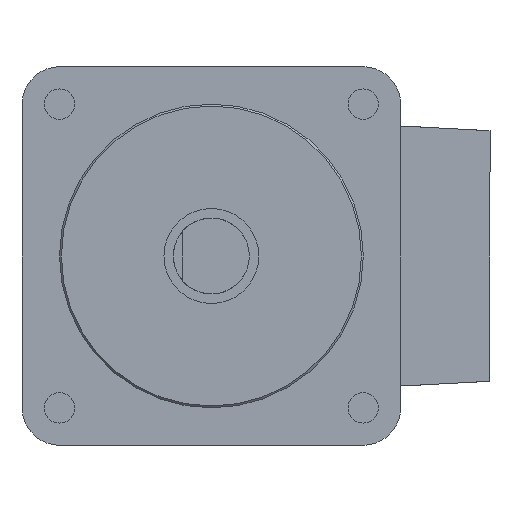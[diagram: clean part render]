
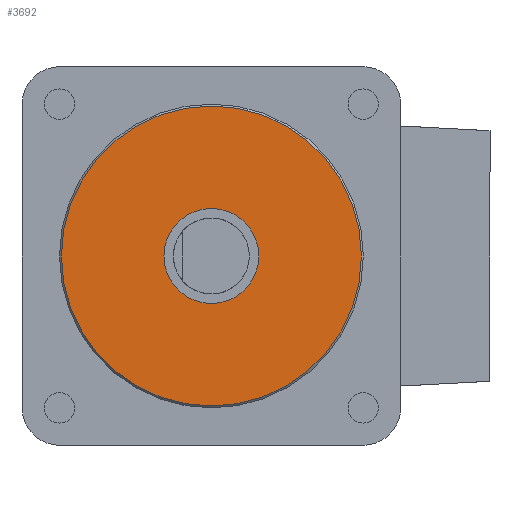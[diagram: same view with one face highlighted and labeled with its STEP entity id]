
A CAD part, front view. The second image highlights one B-rep face of the part: STEP entity #3692.
In plain terms, the highlighted planar face has unit normal (0, -1, 0).
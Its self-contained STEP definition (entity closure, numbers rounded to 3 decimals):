
#16 = DIRECTION ( 'NONE',  ( 0., 0., 1. ) ) ;
#70 = DIRECTION ( 'NONE',  ( 0., 0., -1. ) ) ;
#302 = VERTEX_POINT ( 'NONE', #584 ) ;
#584 = CARTESIAN_POINT ( 'NONE',  ( 0., 0., -2.5 ) ) ;
#966 = ORIENTED_EDGE ( 'NONE', *, *, #4606, .F. ) ;
#1218 = CARTESIAN_POINT ( 'NONE',  ( 0., 0., 0. ) ) ;
#1622 = AXIS2_PLACEMENT_3D ( 'NONE', #2763, #2717, #70 ) ;
#1709 = VERTEX_POINT ( 'NONE', #1840 ) ;
#1840 = CARTESIAN_POINT ( 'NONE',  ( 0., 0., -7.9 ) ) ;
#1956 = VERTEX_POINT ( 'NONE', #4014 ) ;
#2021 = FACE_OUTER_BOUND ( 'NONE', #4656, .T. ) ;
#2110 = CIRCLE ( 'NONE', #4989, 7.9 ) ;
#2369 = CARTESIAN_POINT ( 'NONE',  ( 0., 0., 7.9 ) ) ;
#2717 = DIRECTION ( 'NONE',  ( 0., -1., 0. ) ) ;
#2763 = CARTESIAN_POINT ( 'NONE',  ( 0., 0., 0. ) ) ;
#2805 = CARTESIAN_POINT ( 'NONE',  ( 0., 0., 0. ) ) ;
#2811 = DIRECTION ( 'NONE',  ( 0., 0., -1. ) ) ;
#2864 = ORIENTED_EDGE ( 'NONE', *, *, #4841, .T. ) ;
#2940 = CARTESIAN_POINT ( 'NONE',  ( 0., 0., 0. ) ) ;
#3082 = AXIS2_PLACEMENT_3D ( 'NONE', #1218, #4700, #2811 ) ;
#3121 = PLANE ( 'NONE',  #3811 ) ;
#3156 = CIRCLE ( 'NONE', #4554, 7.9 ) ;
#3283 = EDGE_CURVE ( 'NONE', #302, #1956, #4986, .T. ) ;
#3355 = EDGE_LOOP ( 'NONE', ( #4289, #966 ) ) ;
#3473 = DIRECTION ( 'NONE',  ( 0., 1., 0. ) ) ;
#3570 = CIRCLE ( 'NONE', #3082, 2.5 ) ;
#3630 = DIRECTION ( 'NONE',  ( 0., 0., 1. ) ) ;
#3657 = EDGE_CURVE ( 'NONE', #4137, #1709, #3156, .T. ) ;
#3692 = ADVANCED_FACE ( 'NONE', ( #3885, #2021 ), #3121, .F. ) ;
#3811 = AXIS2_PLACEMENT_3D ( 'NONE', #2805, #3473, #16 ) ;
#3885 = FACE_BOUND ( 'NONE', #3355, .T. ) ;
#4014 = CARTESIAN_POINT ( 'NONE',  ( 0., 0., 2.5 ) ) ;
#4137 = VERTEX_POINT ( 'NONE', #2369 ) ;
#4157 = DIRECTION ( 'NONE',  ( 0., -1., 0. ) ) ;
#4289 = ORIENTED_EDGE ( 'NONE', *, *, #3283, .F. ) ;
#4547 = ORIENTED_EDGE ( 'NONE', *, *, #3657, .T. ) ;
#4554 = AXIS2_PLACEMENT_3D ( 'NONE', #5013, #4157, #4619 ) ;
#4606 = EDGE_CURVE ( 'NONE', #1956, #302, #3570, .T. ) ;
#4619 = DIRECTION ( 'NONE',  ( 0., 0., 1. ) ) ;
#4656 = EDGE_LOOP ( 'NONE', ( #4547, #2864 ) ) ;
#4700 = DIRECTION ( 'NONE',  ( 0., -1., 0. ) ) ;
#4841 = EDGE_CURVE ( 'NONE', #1709, #4137, #2110, .T. ) ;
#4853 = DIRECTION ( 'NONE',  ( 0., -1., 0. ) ) ;
#4986 = CIRCLE ( 'NONE', #1622, 2.5 ) ;
#4989 = AXIS2_PLACEMENT_3D ( 'NONE', #2940, #4853, #3630 ) ;
#5013 = CARTESIAN_POINT ( 'NONE',  ( 0., 0., 0. ) ) ;
